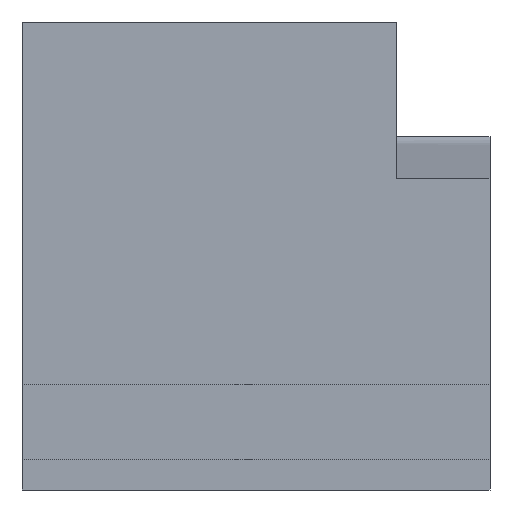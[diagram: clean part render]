
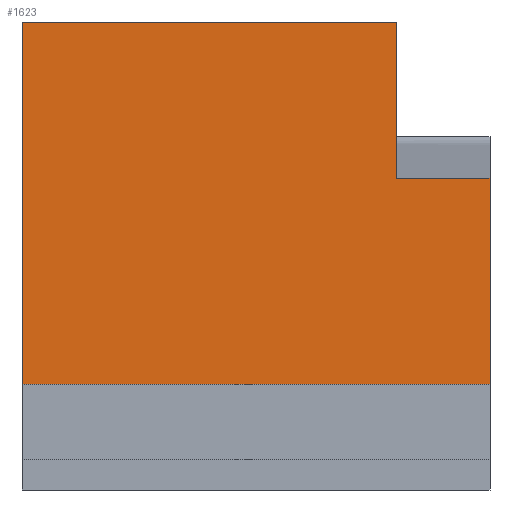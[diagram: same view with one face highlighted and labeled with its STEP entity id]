
A CAD part, front view. The second image highlights one B-rep face of the part: STEP entity #1623.
In plain terms, the highlighted planar face has unit normal (0, -1, 0).
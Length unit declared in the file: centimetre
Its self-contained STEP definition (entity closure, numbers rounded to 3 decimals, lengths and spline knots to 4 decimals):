
#20 = DIRECTION ( 'NONE',  ( 0., 0., -1. ) ) ;
#46 = VECTOR ( 'NONE', #835, 100. ) ;
#192 = VECTOR ( 'NONE', #475, 100. ) ;
#226 = EDGE_LOOP ( 'NONE', ( #2226, #556, #1706, #1754, #1207, #725 ) ) ;
#291 = LINE ( 'NONE', #1355, #1642 ) ;
#313 = CARTESIAN_POINT ( 'NONE',  ( 800.6299, 0., 666.5011 ) ) ;
#345 = LINE ( 'NONE', #2040, #952 ) ;
#449 = CARTESIAN_POINT ( 'NONE',  ( 800.6299, 0., 1000. ) ) ;
#475 = DIRECTION ( 'NONE',  ( 0., 0., -1. ) ) ;
#511 = VERTEX_POINT ( 'NONE', #449 ) ;
#556 = ORIENTED_EDGE ( 'NONE', *, *, #1712, .T. ) ;
#569 = VERTEX_POINT ( 'NONE', #1307 ) ;
#622 = VECTOR ( 'NONE', #20, 100. ) ;
#695 = CARTESIAN_POINT ( 'NONE',  ( 1000., 0., 226.0218 ) ) ;
#707 = CARTESIAN_POINT ( 'NONE',  ( 1000., 0., 1000. ) ) ;
#715 = EDGE_CURVE ( 'NONE', #569, #511, #345, .T. ) ;
#716 = CARTESIAN_POINT ( 'NONE',  ( 0., 0., 226.0218 ) ) ;
#725 = ORIENTED_EDGE ( 'NONE', *, *, #715, .F. ) ;
#835 = DIRECTION ( 'NONE',  ( 1., 0., 0. ) ) ;
#840 = VECTOR ( 'NONE', #1378, 100. ) ;
#903 = VERTEX_POINT ( 'NONE', #695 ) ;
#921 = VERTEX_POINT ( 'NONE', #1196 ) ;
#952 = VECTOR ( 'NONE', #1899, 100. ) ;
#954 = EDGE_CURVE ( 'NONE', #921, #903, #1745, .T. ) ;
#985 = VERTEX_POINT ( 'NONE', #716 ) ;
#996 = CARTESIAN_POINT ( 'NONE',  ( 0., 0., 226.0218 ) ) ;
#1019 = LINE ( 'NONE', #996, #840 ) ;
#1106 = AXIS2_PLACEMENT_3D ( 'NONE', #1494, #2179, #2130 ) ;
#1196 = CARTESIAN_POINT ( 'NONE',  ( 1000., 0., 666.5011 ) ) ;
#1207 = ORIENTED_EDGE ( 'NONE', *, *, #1740, .F. ) ;
#1284 = CARTESIAN_POINT ( 'NONE',  ( 0., 0., 1000. ) ) ;
#1307 = CARTESIAN_POINT ( 'NONE',  ( 0., 0., 1000. ) ) ;
#1355 = CARTESIAN_POINT ( 'NONE',  ( 800.6299, 0., 666.5011 ) ) ;
#1378 = DIRECTION ( 'NONE',  ( 1., 0., 0. ) ) ;
#1494 = CARTESIAN_POINT ( 'NONE',  ( 0., 0., 1000. ) ) ;
#1623 = ADVANCED_FACE ( 'NONE', ( #1951 ), #1770, .F. ) ;
#1642 = VECTOR ( 'NONE', #1685, 100. ) ;
#1672 = LINE ( 'NONE', #1872, #46 ) ;
#1685 = DIRECTION ( 'NONE',  ( 0., 0., -1. ) ) ;
#1706 = ORIENTED_EDGE ( 'NONE', *, *, #954, .F. ) ;
#1712 = EDGE_CURVE ( 'NONE', #985, #903, #1019, .T. ) ;
#1740 = EDGE_CURVE ( 'NONE', #511, #1972, #291, .T. ) ;
#1745 = LINE ( 'NONE', #707, #622 ) ;
#1754 = ORIENTED_EDGE ( 'NONE', *, *, #1755, .F. ) ;
#1755 = EDGE_CURVE ( 'NONE', #1972, #921, #1672, .T. ) ;
#1770 = PLANE ( 'NONE',  #1106 ) ;
#1872 = CARTESIAN_POINT ( 'NONE',  ( 800.6299, 0., 666.5011 ) ) ;
#1899 = DIRECTION ( 'NONE',  ( 1., 0., 0. ) ) ;
#1951 = FACE_OUTER_BOUND ( 'NONE', #226, .T. ) ;
#1972 = VERTEX_POINT ( 'NONE', #313 ) ;
#2040 = CARTESIAN_POINT ( 'NONE',  ( 0., 0., 1000. ) ) ;
#2130 = DIRECTION ( 'NONE',  ( 0., 0., 1. ) ) ;
#2132 = LINE ( 'NONE', #1284, #192 ) ;
#2179 = DIRECTION ( 'NONE',  ( 0., 1., 0. ) ) ;
#2203 = EDGE_CURVE ( 'NONE', #569, #985, #2132, .T. ) ;
#2226 = ORIENTED_EDGE ( 'NONE', *, *, #2203, .T. ) ;
